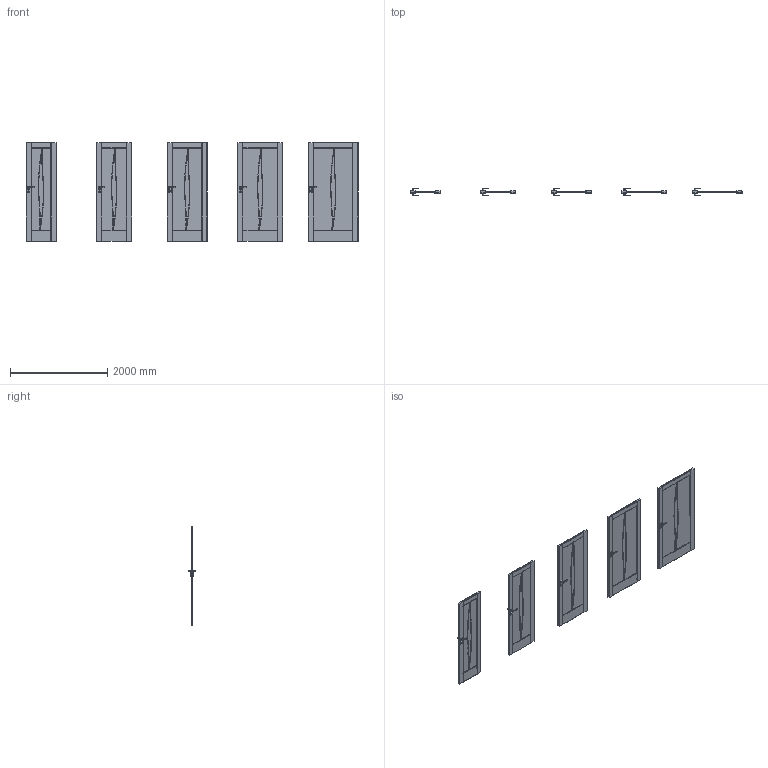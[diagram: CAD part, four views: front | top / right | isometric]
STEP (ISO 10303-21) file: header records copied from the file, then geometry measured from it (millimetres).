
FILE_DESCRIPTION(/* description */ (''),/* implementation_level */ '2;1');
FILE_NAME(/* name */ '049912_A_2-Skrzydło Verte Home model E.5_ polska norma _PN__ bezprzylgowe..stp',/* time_stamp */ '2024-09-13T13:04:40+02:00',/* author */ (''),/* organization */ (''),/* preprocessor_version */ 'ST-DEVELOPER v16',/* originating_system */ 'SIEMENS PLM Software NX 11.0',/* authorisation */ '');
FILE_SCHEMA (('AUTOMOTIVE_DESIGN { 1 0 10303 214 3 1 1 1 }'));
Products named in the file (1): bkni53901D95qvaf
Bounding box: 6818 x 153.13 x 2017.01 mm (x, y, z)
Volume: 178480592.4 mm3; surface area: 20534332.4 mm2
Topology: 25 solids, 75 shells, 3320 faces, 9115 edges, 5770 vertices
Faces by surface type: plane 1490, cylinder 650, cone 480, torus 400, bspline 160, sphere 140
Entity records: 116859 total; most frequent: CARTESIAN_POINT 31046, DIRECTION 18237, ORIENTED_EDGE 17950, EDGE_CURVE 8975, AXIS2_PLACEMENT_3D 7081, VERTEX_POINT 5770, LINE 4075, VECTOR 4075
